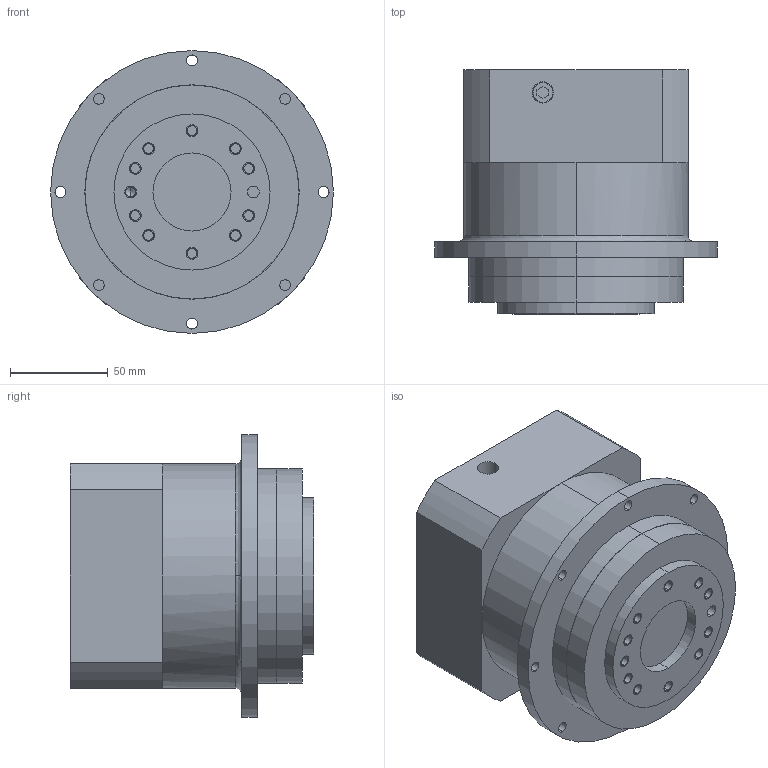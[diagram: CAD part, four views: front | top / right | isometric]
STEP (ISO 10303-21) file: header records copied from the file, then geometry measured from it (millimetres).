
FILE_DESCRIPTION (( 'STEP AP214' ), '1' );
FILE_NAME ('GBPN-1101-FS.STEP', '2011-09-21T22:16:04', ( '' ), ( '' ), 'SwSTEP 2.0', 'SolidWorks 2011', '' );
FILE_SCHEMA (( 'AUTOMOTIVE_DESIGN' ));
Length unit declared in the file: millimetre
Products named in the file (5): M8_10; M6_10; 210-288_065-000; PLFE110_1; GBPN-1101-FS
Assembly tree (7 placements, depth 2):
  GBPN-1101-FS
    M8_10  x4
    210-288_065-000
    M6_10
    PLFE110_1
Bounding box: 145 x 125 x 145 mm (x, y, z)
Surface area: 118493.3 mm2 (no closed solid volume)
Topology: 0 solids, 28 shells, 293 faces, 695 edges, 470 vertices
Faces by surface type: cylinder 156, plane 116, cone 19, bspline 2
Entity records: 9308 total; most frequent: CARTESIAN_POINT 3395, DIRECTION 1286, ORIENTED_EDGE 1060, EDGE_CURVE 567, AXIS2_PLACEMENT_3D 537, VERTEX_POINT 386, EDGE_LOOP 305, CIRCLE 293
